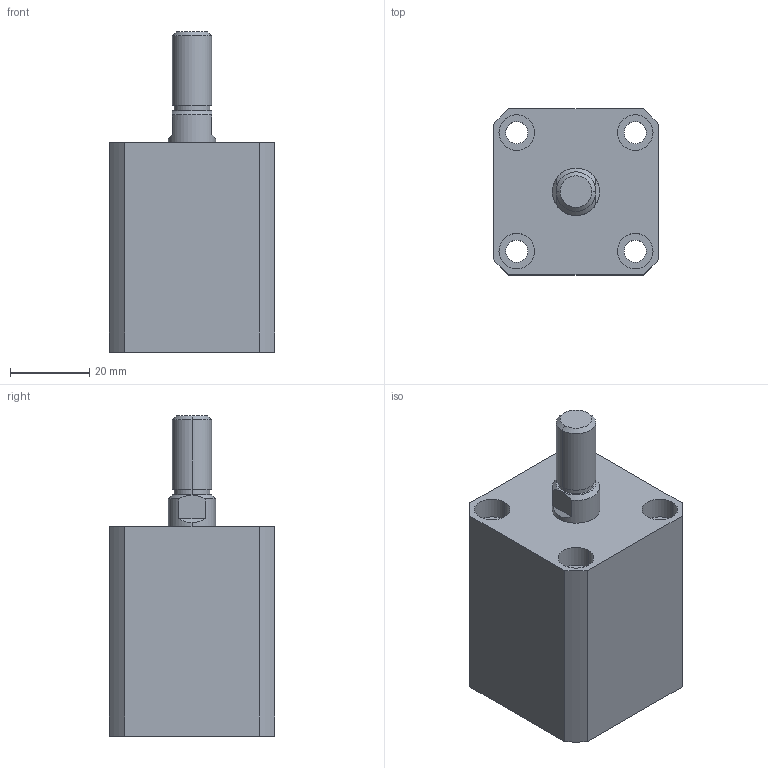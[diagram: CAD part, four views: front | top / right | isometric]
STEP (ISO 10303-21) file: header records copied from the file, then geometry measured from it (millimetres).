
FILE_DESCRIPTION (( 'STEP AP203' ), '1' );
FILE_NAME ('HTB-SDMB20-10W.STEP', '2019-10-08T11:53:36', ( '微软用户' ), ( '微软中国' ), 'SwSTEP 2.0', 'SolidWorks 2012', '' );
FILE_SCHEMA (( 'CONFIG_CONTROL_DESIGN' ));
Length unit declared in the file: millimetre
Products named in the file (3): HTB-SDMB20-10W活塞杆; HTB-SDMB20-10W; HTB-SDMB20-10掛极
Assembly tree (2 placements, depth 2):
  HTB-SDMB20-10W
    HTB-SDMB20-10掛极
    HTB-SDMB20-10W活塞杆
Bounding box: 42 x 42 x 81 mm (x, y, z)
Volume: 85053.5 mm3; surface area: 22381.6 mm2
Topology: 2 solids, 2 shells, 140 faces, 332 edges, 218 vertices
Faces by surface type: plane 66, cylinder 48, bspline 16, torus 6, cone 4
Entity records: 5129 total; most frequent: CARTESIAN_POINT 1587, ORIENTED_EDGE 664, DIRECTION 662, EDGE_CURVE 332, AXIS2_PLACEMENT_3D 241, VERTEX_POINT 218, LINE 180, VECTOR 180
